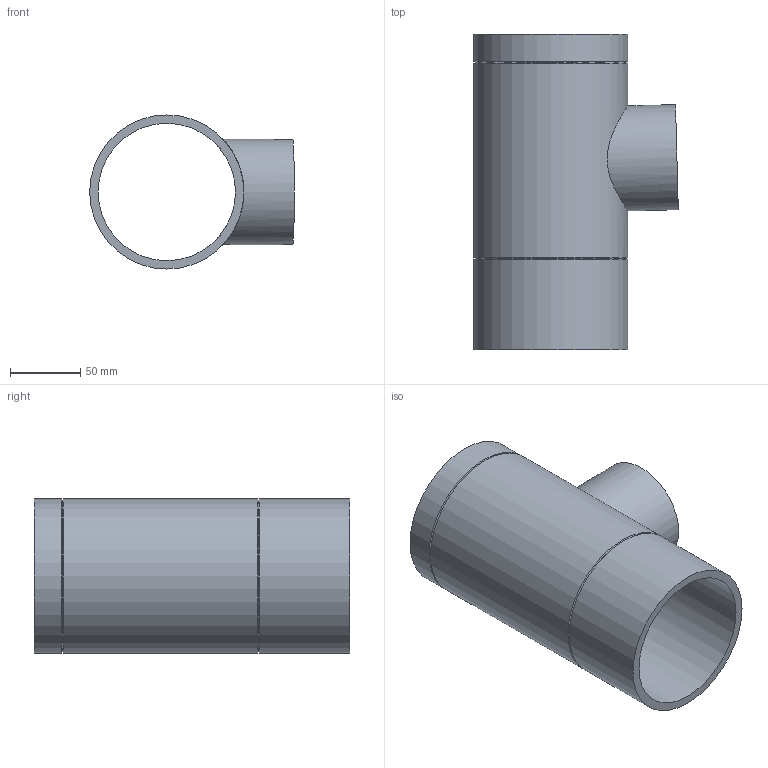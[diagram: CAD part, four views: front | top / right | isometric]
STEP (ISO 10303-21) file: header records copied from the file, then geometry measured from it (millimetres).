
FILE_DESCRIPTION(/* description */ (''),/* implementation_level */ '2;1');
FILE_NAME(/* name */ 'Z:\Geberit\Export\Export18\Abzweig Gerade_Ipart\stp\310078.stp',/* time_stamp */ '2014-08-26T21:49:47+02:00',/* author */ ('ML'),/* organization */ (''),/* preprocessor_version */ 'ST-DEVELOPER v15.2',/* originating_system */ 'Autodesk Inventor 2014',/* authorisation */ '');
FILE_SCHEMA (('AUTOMOTIVE_DESIGN { 1 0 10303 214 3 1 1 }'));
Length unit declared in the file: millimetre
Products named in the file (1): 310078
Bounding box: 145.95 x 225 x 110 mm (x, y, z)
Volume: 450793.9 mm3; surface area: 164045.1 mm2
Topology: 1 solids, 1 shells, 13 faces, 31 edges, 20 vertices
Faces by surface type: cylinder 6, cone 4, plane 3
Full cylindrical faces by diameter (mm): 67.8 x1, 75 x1, 98 x1, 110 x3
Entity records: 427 total; most frequent: CARTESIAN_POINT 172, DIRECTION 52, EDGE_LOOP 28, ORIENTED_EDGE 28, AXIS2_PLACEMENT_3D 26, FACE_BOUND 19, VERTEX_POINT 14, EDGE_CURVE 14
